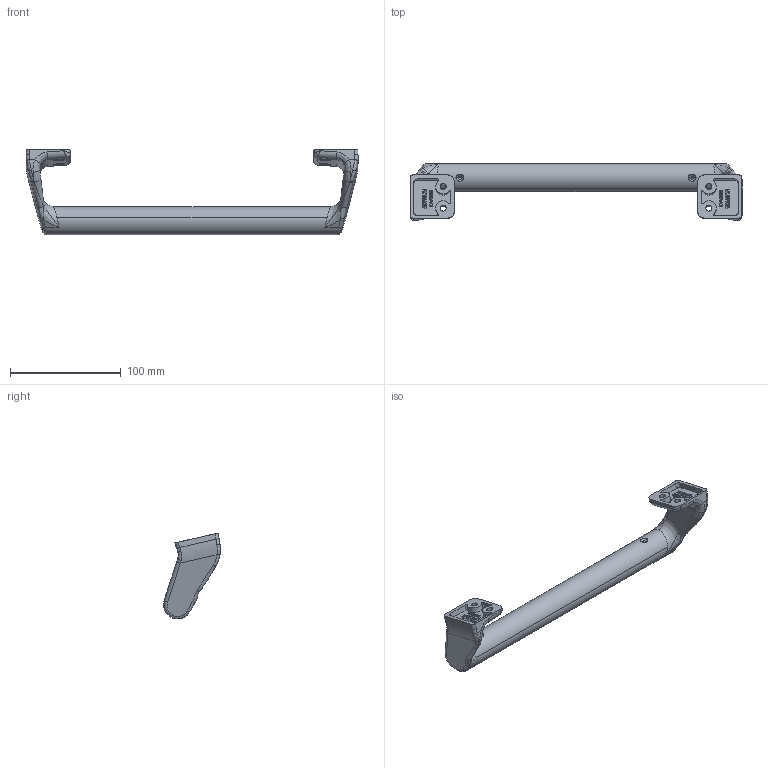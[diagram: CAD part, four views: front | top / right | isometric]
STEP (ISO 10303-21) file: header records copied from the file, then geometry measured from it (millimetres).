
FILE_DESCRIPTION (( 'STEP AP214' ), '1' );
FILE_NAME ('A73 KA-1223-1.STEP', '2016-11-24T02:33:06', ( '' ), ( '' ), 'SwSTEP 2.0', 'SolidWorks 2011', '' );
FILE_SCHEMA (( 'AUTOMOTIVE_DESIGN' ));
Length unit declared in the file: millimetre
Products named in the file (1): A73 KA-1223-1
Bounding box: 300 x 51.44 x 77.52 mm (x, y, z)
Volume: 100670.7 mm3; surface area: 60778.7 mm2
Topology: 1 solids, 1 shells, 520 faces, 1374 edges, 876 vertices
Faces by surface type: plane 254, bspline 146, cylinder 92, cone 28
Entity records: 23940 total; most frequent: CARTESIAN_POINT 12015, ORIENTED_EDGE 2724, DIRECTION 1936, EDGE_CURVE 1362, VERTEX_POINT 876, VECTOR 850, LINE 850, EDGE_LOOP 566
